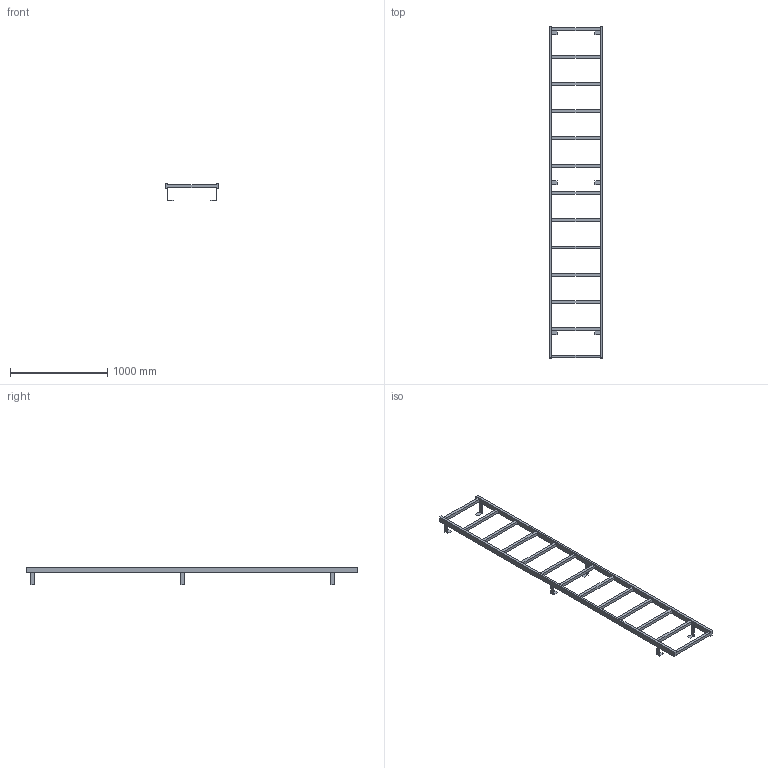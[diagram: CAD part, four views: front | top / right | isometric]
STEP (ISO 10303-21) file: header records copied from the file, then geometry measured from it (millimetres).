
FILE_DESCRIPTION((''),'2;1');
FILE_NAME('52311197','2024-10-17T13:49:26',('wep'),('HUBER SE'),'CREO PARAMETRIC BY PTC INC, 2022162','CREO PARAMETRIC BY PTC INC, 2022162','');
FILE_SCHEMA(('AUTOMOTIVE_DESIGN { 1 0 10303 214 1 1 1 1 }'));
Length unit declared in the file: millimetre
Products named in the file (1): 52311197
Bounding box: 550 x 3410 x 178.5 mm (x, y, z)
Volume: 15665940 mm3; surface area: 1970132 mm2
Topology: 1 solids, 1 shells, 110 faces, 320 edges, 208 vertices
Faces by surface type: plane 110
Entity records: 4153 total; most frequent: CARTESIAN_POINT 640, ORIENTED_EDGE 640, DIRECTION 540, VECTOR 320, LINE 320, EDGE_CURVE 320, VERTEX_POINT 208, EDGE_LOOP 130
